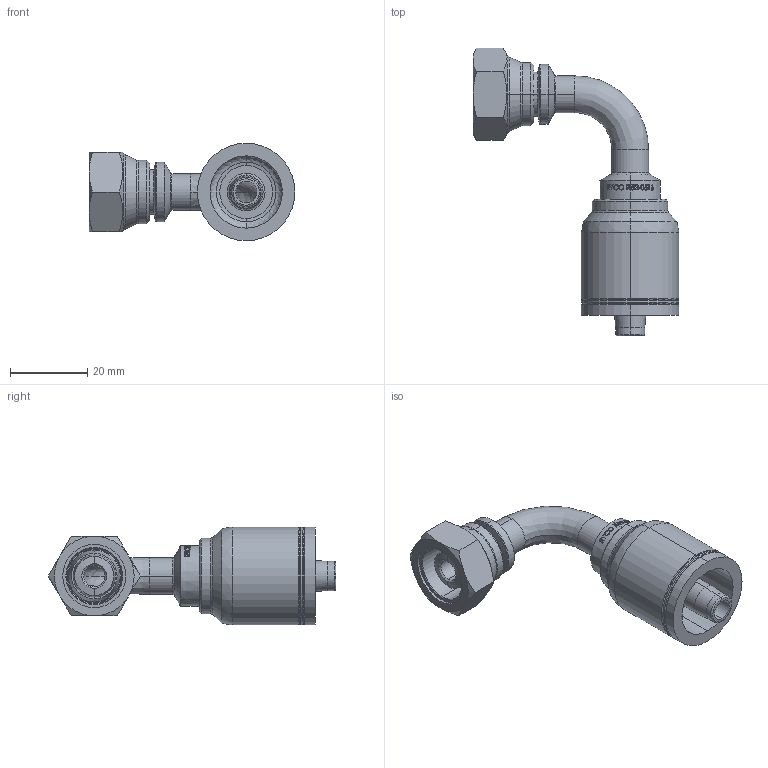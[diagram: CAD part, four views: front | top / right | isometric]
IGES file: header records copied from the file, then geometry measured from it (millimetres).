
Start section: SolidWorks IGES file using analytic representation for surfaces
Global section: file name: X:\SolidWorks\Solidworks models-to be checked\Customer Part Models\T252-0516.IGS; native system: SolidWorks 2010; preprocessor: SolidWorks 2010; author: MKitchenham; date: 120326.161922; units: millimetre
Bounding box: 53.31 x 74.44 x 25.25 mm (x, y, z)
Volume: 14645 mm3; surface area: 11422.6 mm2
Topology: 3 solids, 3 shells, 310 faces, 739 edges, 458 vertices
Faces by surface type: revolution 160, bspline 89, plane 61
